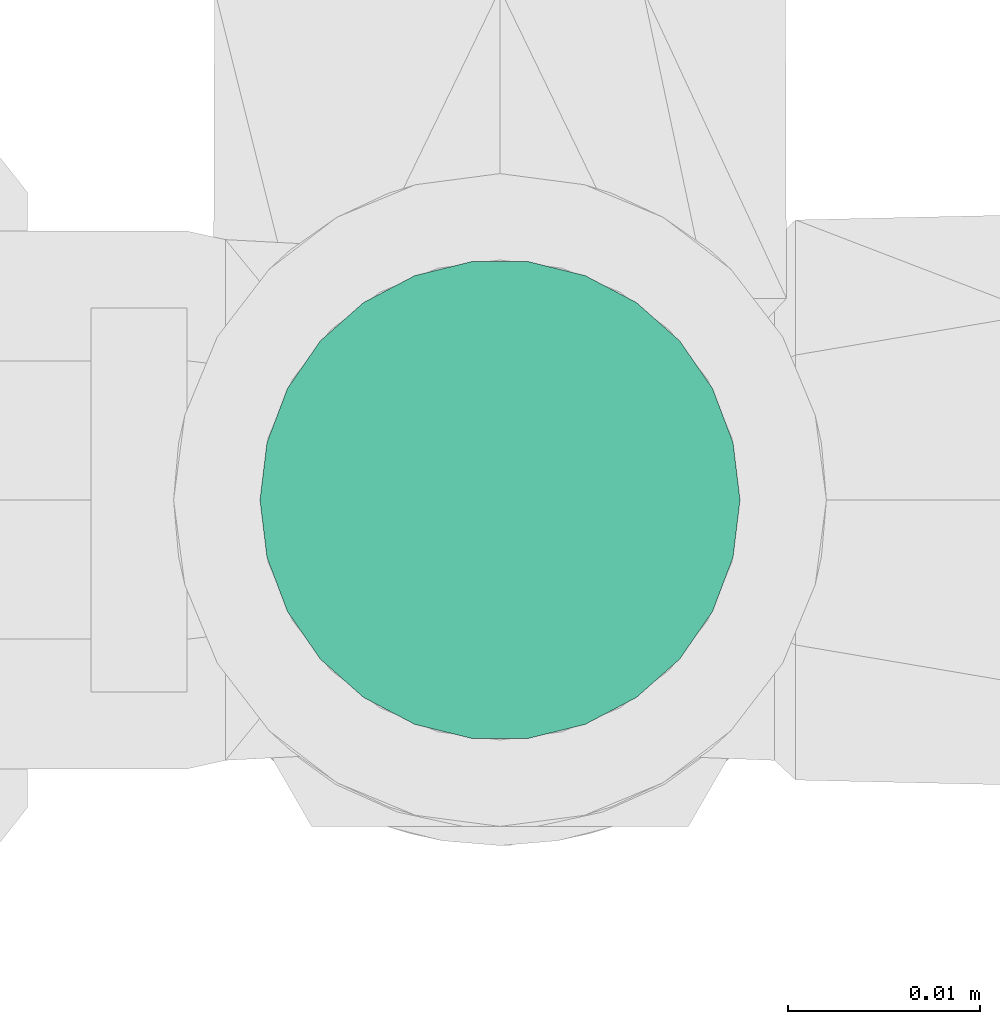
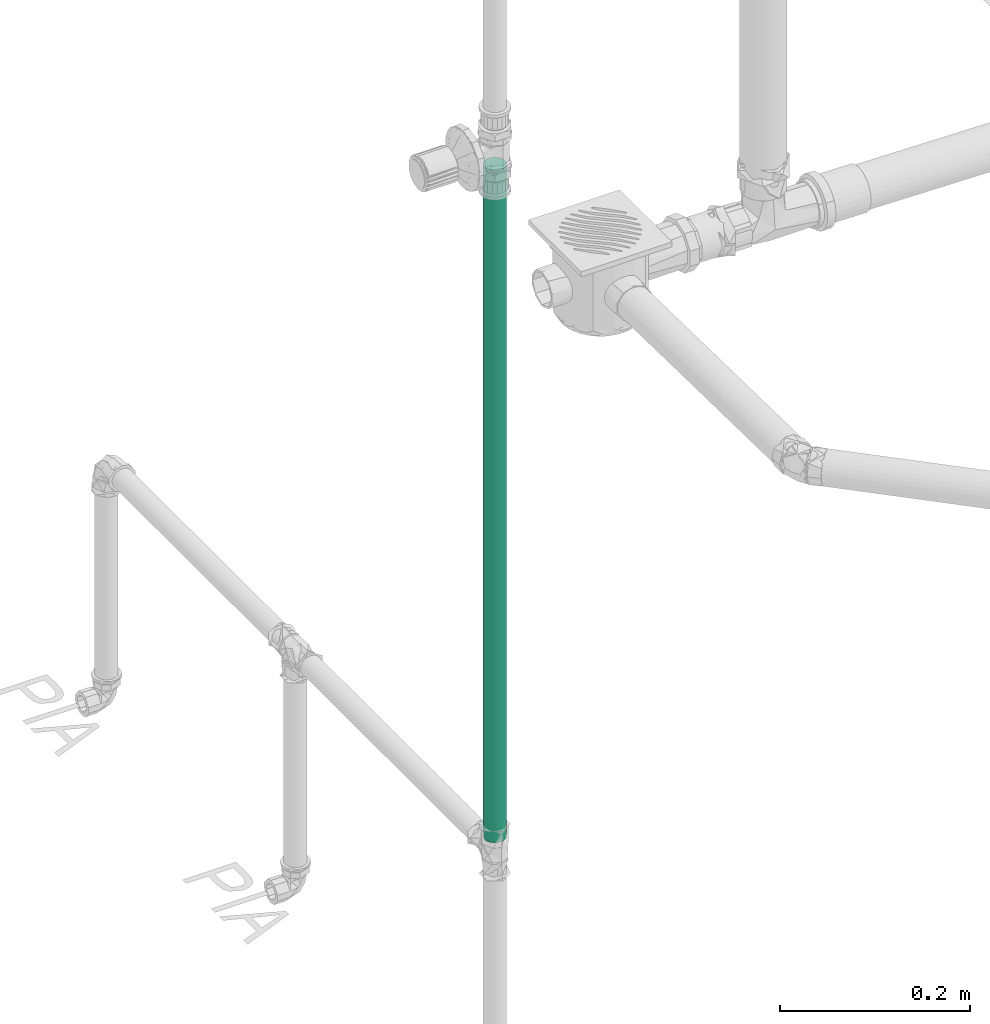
# One storey, part 126 of 589: 1 flow segment.
"""IFC2X3 building model written with IfcOpenShell, lengths in millimetres."""

from ifc_helpers import new_model, entity, si_unit, converted_unit, derived_unit, direction, frame, origin, origin_2d_with_axis, place, context, subcontext, project, spatial, circle, extrude, type_object, element, save


model = new_model("IFC2X3")

# Units and contexts
model_context = context("Model", 3, precision=0.01, world=origin(), true_north=direction((6.123031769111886e-17, 1.0)))
body_context = subcontext(model_context, "Body", "Model", "MODEL_VIEW")
ifc_project = project(units=[si_unit("LENGTHUNIT", "METRE", prefix="MILLI"), si_unit("AREAUNIT", "SQUARE_METRE"), si_unit("VOLUMEUNIT", "CUBIC_METRE"), converted_unit("PLANEANGLEUNIT", "DEGREE", entity("IfcRatioMeasure", 0.017453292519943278), si_unit("PLANEANGLEUNIT", "RADIAN"), dimensions=[0, 0, 0, 0, 0, 0, 0]), si_unit("MASSUNIT", "GRAM", prefix="KILO"), derived_unit("MASSDENSITYUNIT", [(si_unit("MASSUNIT", "GRAM", prefix="KILO"), 1), (si_unit("LENGTHUNIT", "METRE"), -3)]), derived_unit("IONCONCENTRATIONUNIT", [(si_unit("MASSUNIT", "GRAM", prefix="KILO"), 1), (si_unit("LENGTHUNIT", "METRE"), -3)]), derived_unit("MOMENTOFINERTIAUNIT", [(si_unit("LENGTHUNIT", "METRE"), 4)]), si_unit("TIMEUNIT", "SECOND"), si_unit("FREQUENCYUNIT", "HERTZ"), si_unit("THERMODYNAMICTEMPERATUREUNIT", "DEGREE_CELSIUS"), derived_unit("THERMALTRANSMITTANCEUNIT", [(si_unit("MASSUNIT", "GRAM", prefix="KILO"), 1), (si_unit("THERMODYNAMICTEMPERATUREUNIT", "KELVIN"), -1), (si_unit("TIMEUNIT", "SECOND"), -3)]), derived_unit("THERMALCONDUCTANCEUNIT", [(si_unit("MASSUNIT", "GRAM", prefix="KILO"), 1), (si_unit("THERMODYNAMICTEMPERATUREUNIT", "KELVIN"), -1), (si_unit("TIMEUNIT", "SECOND"), -3), (si_unit("LENGTHUNIT", "METRE"), 1)]), derived_unit("VOLUMETRICFLOWRATEUNIT", [(si_unit("LENGTHUNIT", "METRE"), 3), (si_unit("TIMEUNIT", "SECOND"), -1)]), derived_unit("MASSFLOWRATEUNIT", [(si_unit("MASSUNIT", "GRAM", prefix="KILO"), 1), (si_unit("TIMEUNIT", "SECOND"), -1)]), derived_unit("ROTATIONALFREQUENCYUNIT", [(si_unit("TIMEUNIT", "SECOND"), -1)]), si_unit("ELECTRICCURRENTUNIT", "AMPERE"), si_unit("ELECTRICVOLTAGEUNIT", "VOLT"), si_unit("POWERUNIT", "WATT"), si_unit("FORCEUNIT", "NEWTON", prefix="KILO"), si_unit("ILLUMINANCEUNIT", "LUX"), si_unit("LUMINOUSFLUXUNIT", "LUMEN"), si_unit("LUMINOUSINTENSITYUNIT", "CANDELA"), derived_unit("USERDEFINED", [(si_unit("MASSUNIT", "GRAM", prefix="KILO"), -1), (si_unit("LENGTHUNIT", "METRE"), -2), (si_unit("TIMEUNIT", "SECOND"), 3), (si_unit("LUMINOUSFLUXUNIT", "LUMEN"), 1)]), derived_unit("USERDEFINED", [(si_unit("MASSUNIT", "GRAM", prefix="KILO"), 1), (si_unit("TIMEUNIT", "SECOND"), -3), (si_unit("LENGTHUNIT", "METRE"), 3), (si_unit("ELECTRICCURRENTUNIT", "AMPERE"), -2)]), derived_unit("SOUNDPOWERUNIT", [(si_unit("MASSUNIT", "GRAM", prefix="KILO"), 1), (si_unit("TIMEUNIT", "SECOND"), -3), (si_unit("LENGTHUNIT", "METRE"), 2)]), derived_unit("SOUNDPRESSUREUNIT", [(si_unit("MASSUNIT", "GRAM", prefix="KILO"), 1), (si_unit("LENGTHUNIT", "METRE"), -1), (si_unit("TIMEUNIT", "SECOND"), -2)]), derived_unit("LINEARVELOCITYUNIT", [(si_unit("LENGTHUNIT", "METRE"), 1), (si_unit("TIMEUNIT", "SECOND"), -1)]), si_unit("PRESSUREUNIT", "PASCAL"), derived_unit("USERDEFINED", [(si_unit("MASSUNIT", "GRAM", prefix="KILO"), 1), (si_unit("LENGTHUNIT", "METRE"), -2), (si_unit("TIMEUNIT", "SECOND"), -2)]), derived_unit("LINEARFORCEUNIT", [(si_unit("MASSUNIT", "GRAM", prefix="KILO"), 1), (si_unit("TIMEUNIT", "SECOND"), -2)]), derived_unit("PLANARFORCEUNIT", [(si_unit("MASSUNIT", "GRAM", prefix="KILO"), 1), (si_unit("LENGTHUNIT", "METRE"), -1), (si_unit("TIMEUNIT", "SECOND"), -2)]), derived_unit("SPECIFICHEATCAPACITYUNIT", [(si_unit("THERMODYNAMICTEMPERATUREUNIT", "KELVIN"), -1), (si_unit("LENGTHUNIT", "METRE"), 2), (si_unit("TIMEUNIT", "SECOND"), -2)]), derived_unit("HEATINGVALUEUNIT", [(si_unit("LENGTHUNIT", "METRE"), 2), (si_unit("TIMEUNIT", "SECOND"), -2)]), derived_unit("VAPORPERMEABILITYUNIT", [(si_unit("LENGTHUNIT", "METRE"), -1), (si_unit("TIMEUNIT", "SECOND"), 1)]), derived_unit("DYNAMICVISCOSITYUNIT", [(si_unit("MASSUNIT", "GRAM", prefix="KILO"), 1), (si_unit("TIMEUNIT", "SECOND"), -1), (si_unit("LENGTHUNIT", "METRE"), -1)]), derived_unit("THERMALEXPANSIONCOEFFICIENTUNIT", [(si_unit("THERMODYNAMICTEMPERATUREUNIT", "KELVIN"), -1)]), derived_unit("MODULUSOFELASTICITYUNIT", [(si_unit("MASSUNIT", "GRAM", prefix="KILO"), 1), (si_unit("LENGTHUNIT", "METRE"), -1), (si_unit("TIMEUNIT", "SECOND"), -2)]), derived_unit("ISOTHERMALMOISTURECAPACITYUNIT", [(si_unit("LENGTHUNIT", "METRE"), 3), (si_unit("MASSUNIT", "GRAM", prefix="KILO"), -1)]), derived_unit("MOISTUREDIFFUSIVITYUNIT", [(si_unit("TIMEUNIT", "SECOND"), -1), (si_unit("LENGTHUNIT", "METRE"), 2)])], contexts=[model_context])

# Site, building, storey
site_placement = place(None, origin())
site = spatial("IfcSite", under=ifc_project, at=site_placement, Name="Default", CompositionType="ELEMENT")
building_placement = place(site_placement, origin())
building = spatial("IfcBuilding", under=site, at=building_placement, CompositionType="ELEMENT")
storey_placement = place(building_placement, frame((0.0, 0.0, 100.0)))
storey = spatial("IfcBuildingStorey", under=building, at=storey_placement, Name="TÉRREO", CompositionType="ELEMENT", Elevation=100.0)

# Flow segment
pipe_segment_type = type_object("IfcPipeSegmentType", Name="Tipos de tubos:PVC Marrom Soldável", PredefinedType="NOTDEFINED")
flow_segment_placement = place(storey_placement, origin())
element("IfcFlowSegment", 1, at=flow_segment_placement, inside=storey, type_object=pipe_segment_type, Name="Tipos de tubos:PVC Marrom Soldável", ObjectType="Tipos de tubos:PVC Marrom Soldável", context=body_context, shape_type="SweptSolid", body=[
    extrude(circle(Radius=12.5, at=origin_2d_with_axis()), frame((3191.179797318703, 277.3181290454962, 1315.9), z_axis=(0.0, 0.0, 1.0), x_axis=(-1.0, 0.0, 0.0)), (0.0, 0.0, 1.0), 864.1000000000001),
])

save(model, "model.ifc")
